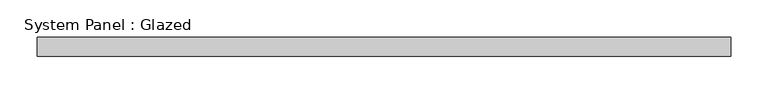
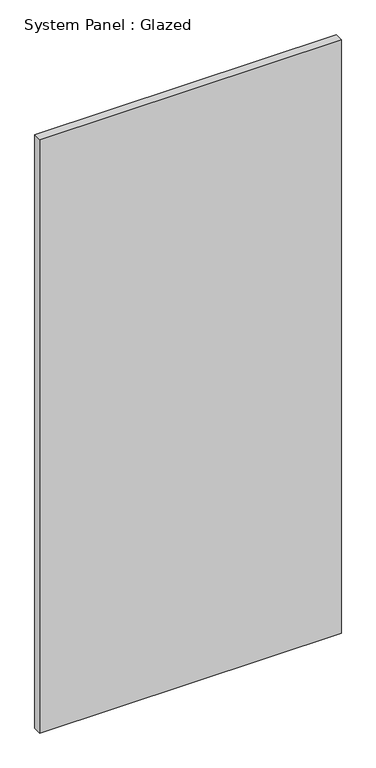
"""IFC4 building model written with IfcOpenShell, lengths in millimetres: plate geometry, System Panel : Glazed."""

from ifc_helpers import new_model, si_unit, origin, origin_with_axes, place, context, project, spatial, polyline, outline, extrude, source, transform, mapped, element, save


def system_panel_glazed_bbaf7566(model_context):
    return source(origin(), model_context, "Body", "SweptSolid", [
        extrude(outline(polyline([(462.5, 24.5), (-462.5, 24.5), (-462.5, 49.5), (462.5, 49.5), (462.5, 24.5)])), origin_with_axes(), (0.0, 0.0, 1.0), 1922.2919866),
    ])


if __name__ == "__main__":
    model = new_model("IFC4")
    model_context = context("Model", 3, world=origin())
    ifc_project = project(units=[si_unit("LENGTHUNIT", "METRE", prefix="MILLI")], contexts=[model_context])
    site = spatial("IfcSite", under=ifc_project)
    building = spatial("IfcBuilding", under=site)
    placement = place(None, origin())
    system_panel_glazed_shape = system_panel_glazed_bbaf7566(model_context)
    element("IfcPlate", 1, ObjectType="System Panel : Glazed", at=placement, inside=building, context=model_context, shape_type="MappedRepresentation", body=[
        mapped(system_panel_glazed_shape, transform((0.0, 0.0, 0.0), x_axis=(1.0, 0.0, 0.0), y_axis=(0.0, 1.0, 0.0), z_axis=(0.0, 0.0, 1.0))),
    ])
    save(model, "model.ifc")
